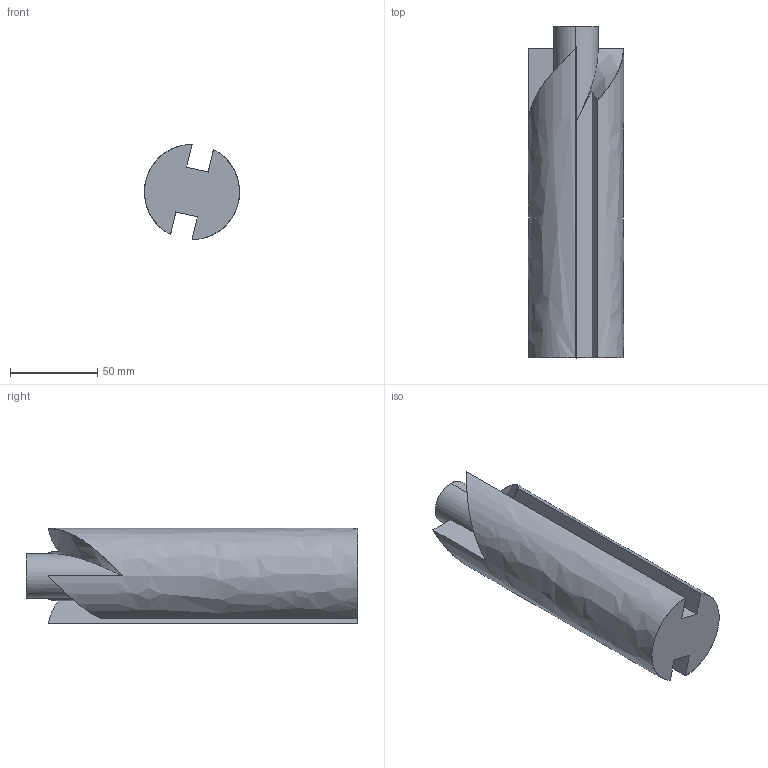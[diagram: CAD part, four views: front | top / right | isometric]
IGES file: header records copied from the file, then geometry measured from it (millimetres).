
Start section: SolidWorks IGES file using analytic representation for surfaces
Global section: file name: J:\groups\me437w2012\CAD\inside.IGS; native system: SolidWorks 2011; preprocessor: SolidWorks 2011; author: brettany; date: 120315.112112; units: inch
Bounding box: 54.61 x 190.5 x 54.61 mm (x, y, z)
Surface area: 44820.6 mm2 (no closed solid volume)
Topology: 0 solids, 0 shells, 20 faces, 460 edges, 460 vertices
Faces by surface type: bspline 16, revolution 4
